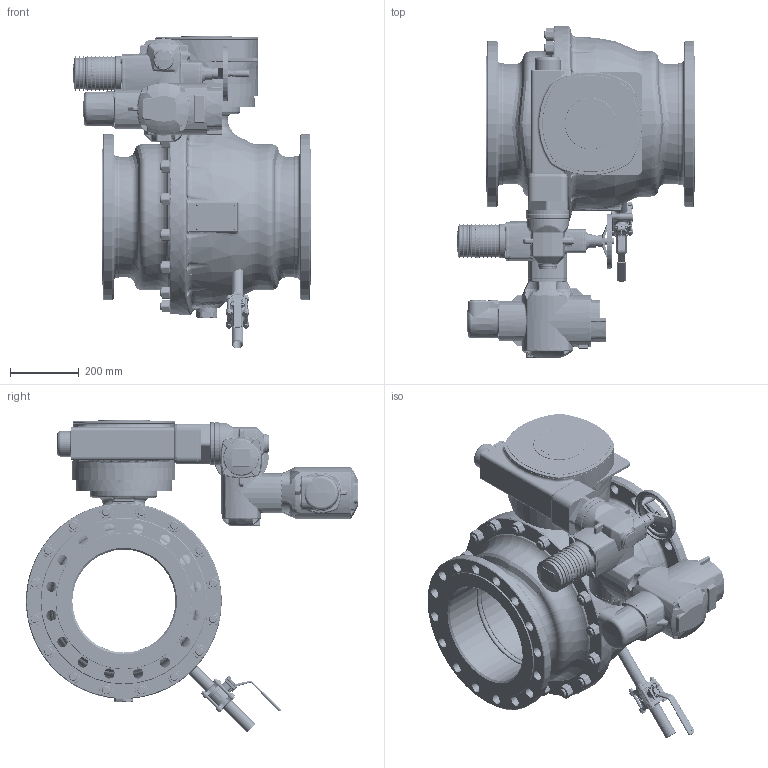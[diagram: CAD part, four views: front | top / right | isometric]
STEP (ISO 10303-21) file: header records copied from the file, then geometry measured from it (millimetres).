
FILE_DESCRIPTION((''),'2;1');
FILE_NAME('250_ASM','2017-01-17T',('schwaba'),('RAND'),'PRO/ENGINEER BY PARAMETRIC TECHNOLOGY CORPORATION, 2016100','PRO/ENGINEER BY PARAMETRIC TECHNOLOGY CORPORATION, 2016100','');
FILE_SCHEMA(('CONFIG_CONTROL_DESIGN'));
Products named in the file (3): KHI_300_PN25_FR_WE_ENTL_O_IT; GS125_F25_SA07_AM_ZWPL_DN300; 250_ASM
Assembly tree (2 placements, depth 2):
  250_ASM
    KHI_300_PN25_FR_WE_ENTL_O_IT
    GS125_F25_SA07_AM_ZWPL_DN300
Bounding box: 695 x 967 x 910.09 mm (x, y, z)
Volume: 68847782.2 mm3; surface area: 5408531.2 mm2
Topology: 3 solids, 11 shells, 6128 faces, 14908 edges, 8958 vertices
Faces by surface type: plane 1946, cylinder 1330, bspline 1323, torus 729, cone 679, sphere 121
Entity records: 402181 total; most frequent: CARTESIAN_POINT 267585, ORIENTED_EDGE 29698, DIRECTION 26215, EDGE_CURVE 14849, AXIS2_PLACEMENT_3D 10271, VERTEX_POINT 8958, EDGE_LOOP 6497, FACE_OUTER_BOUND 6128
